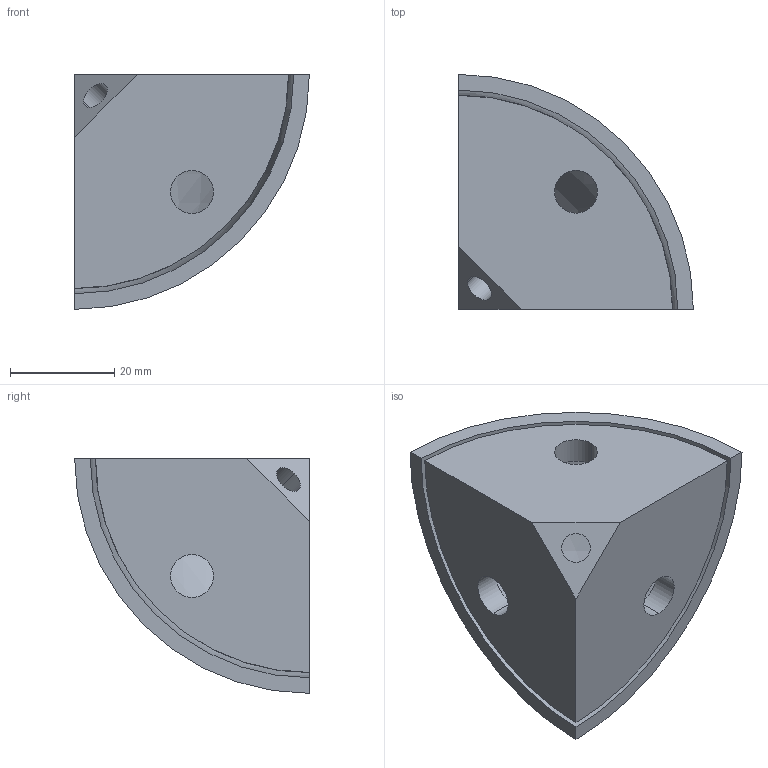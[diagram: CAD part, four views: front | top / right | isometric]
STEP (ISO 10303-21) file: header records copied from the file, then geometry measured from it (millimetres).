
FILE_DESCRIPTION((''),'2;1');
FILE_NAME('GIS045R_ASM','2002-12-27T',('Lipro doo'),('Lipro d.o.o.'),'PRO/ENGINEER BY PARAMETRIC TECHNOLOGY CORPORATION, 2001150','PRO/ENGINEER BY PARAMETRIC TECHNOLOGY CORPORATION, 2001150','');
FILE_SCHEMA(('CONFIG_CONTROL_DESIGN'));
Length unit declared in the file: millimetre
Products named in the file (3): GIS045R_1; GIS045R_2; GIS045R_ASM
Assembly tree (2 placements, depth 2):
  GIS045R_ASM
    GIS045R_1
    GIS045R_2
Bounding box: 45 x 45 x 45 mm (x, y, z)
Volume: 24949.8 mm3; surface area: 14200.8 mm2
Topology: 2 solids, 2 shells, 24 faces, 56 edges, 34 vertices
Faces by surface type: plane 11, cylinder 11, sphere 2
Entity records: 793 total; most frequent: DIRECTION 137, CARTESIAN_POINT 129, ORIENTED_EDGE 108, AXIS2_PLACEMENT_3D 57, EDGE_CURVE 54, VERTEX_POINT 34, EDGE_LOOP 32, CIRCLE 28
